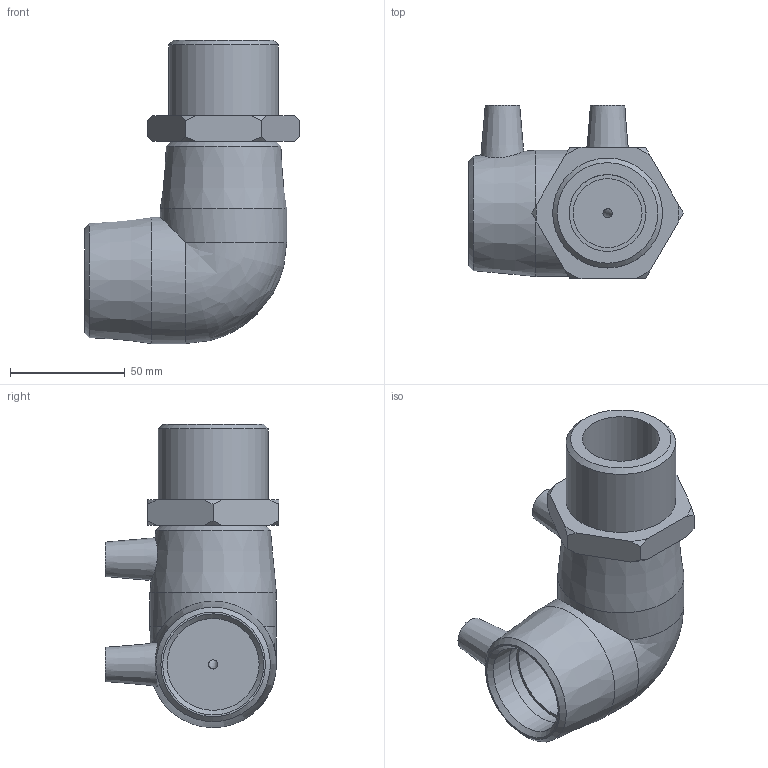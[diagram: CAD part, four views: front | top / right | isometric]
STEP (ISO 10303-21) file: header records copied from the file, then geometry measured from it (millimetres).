
FILE_DESCRIPTION(/* description */ ('PE Male Transition Elbow 90° 40x 1 1_2'),/* implementation_level */ '2;1');
FILE_NAME(/* name */ 'C:\Dropbox\KIMPROJECTS-Inventor\99-16-3568-Processing\ElectroFusion Fittings\21.04\497504\497504040015.ipt.stp',/* time_stamp */ '2019-04-21T15:13:02+03:00',/* author */ ('KIM'),/* organization */ (''),/* preprocessor_version */ 'ST-DEVELOPER v15.6',/* originating_system */ 'Autodesk Inventor 2015',/* authorisation */ '');
FILE_SCHEMA (('AUTOMOTIVE_DESIGN { 1 0 10303 214 3 1 1 }'));
Length unit declared in the file: millimetre
Products named in the file (1): 497504040015
Bounding box: 93.5 x 75.58 x 132 mm (x, y, z)
Volume: 258612.4 mm3; surface area: 58896 mm2
Topology: 2 solids, 2 shells, 60 faces, 134 edges, 86 vertices
Faces by surface type: plane 22, cone 22, cylinder 14, bspline 1, torus 1
Full cylindrical faces by diameter (mm): 4 x3, 10 x2, 30 x1, 33.462 x1, 40 x4, 47.803 x1, 55 x2
Entity records: 1529 total; most frequent: CARTESIAN_POINT 368, DIRECTION 242, ORIENTED_EDGE 192, AXIS2_PLACEMENT_3D 112, EDGE_LOOP 101, EDGE_CURVE 96, VERTEX_POINT 77, FACE_OUTER_BOUND 60
